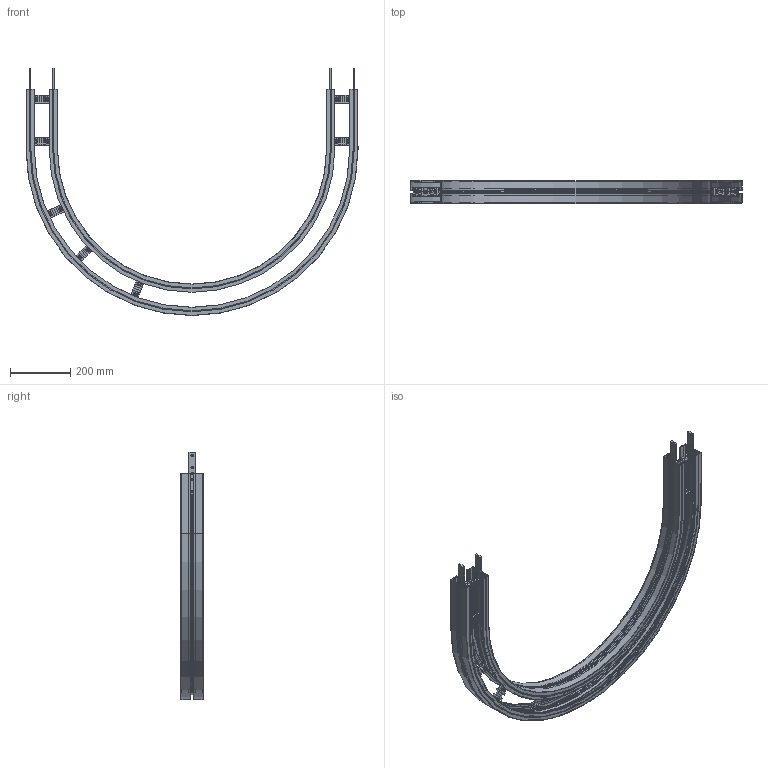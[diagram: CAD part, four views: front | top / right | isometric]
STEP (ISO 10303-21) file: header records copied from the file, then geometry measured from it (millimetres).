
FILE_DESCRIPTION (( 'STEP AP214' ), '1' );
FILE_NAME ('FCHB R500.STEP', '2012-04-04T11:38:48', ( 'gs' ), ( 'Microsoft' ), 'SwSTEP 2.0', 'SolidWorks 2011', '' );
FILE_SCHEMA (( 'AUTOMOTIVE_DESIGN' ));
Length unit declared in the file: millimetre
Products named in the file (8): FACS-25.éclisse larg 25mm_Default; Clamp Flex_FCHB - CLP; Ecrou bague frein; vis CHC  lg23 ; Clamp_FC; FASR-25 U_180R500; FCHB R500_180R500; FCHB R500
Assembly tree (20 placements, depth 3):
  FCHB R500
    FASR-25 U_180R500  x2
    FACS-25.éclisse larg 25mm_Default  x4
    Clamp Flex_FCHB - CLP  x7
      Ecrou bague frein
      Clamp_FC
      vis CHC  lg23 
    FCHB R500_180R500
Bounding box: 1105 x 76.3 x 822.5 mm (x, y, z)
Volume: 2098532.9 mm3; surface area: 2144803.7 mm2
Topology: 52 solids, 52 shells, 2879 faces, 7159 edges, 4118 vertices
Faces by surface type: plane 1166, cylinder 1056, torus 213, sphere 196, bspline 168, cone 80
Entity records: 22278 total; most frequent: CARTESIAN_POINT 4033, DIRECTION 3926, ORIENTED_EDGE 3590, EDGE_CURVE 1795, AXIS2_PLACEMENT_3D 1420, VERTEX_POINT 1087, VECTOR 1086, LINE 1086
